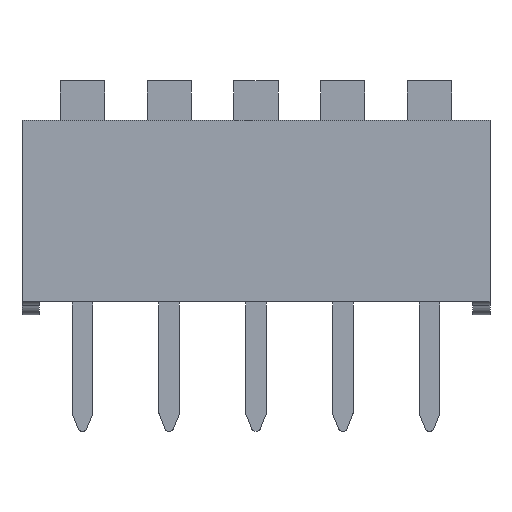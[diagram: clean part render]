
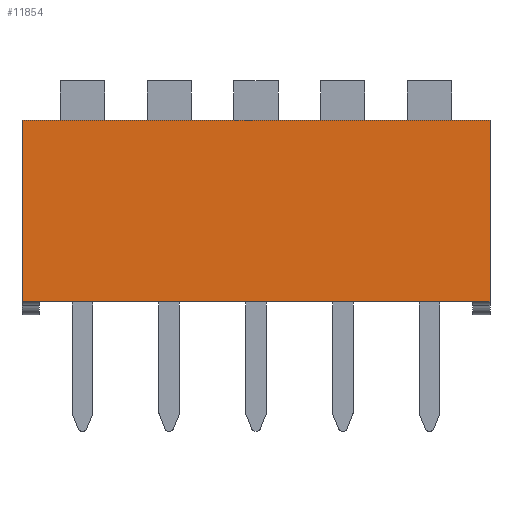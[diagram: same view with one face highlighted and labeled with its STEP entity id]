
A CAD part, front view. The second image highlights one B-rep face of the part: STEP entity #11854.
In plain terms, the highlighted planar face has unit normal (0, -1, 0).
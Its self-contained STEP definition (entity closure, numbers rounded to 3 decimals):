
#102 = PLANE('',#103);
#103 = AXIS2_PLACEMENT_3D('',#104,#105,#106);
#104 = CARTESIAN_POINT('',(-1.77,8.76,0.4));
#105 = DIRECTION('',(-1.,0.,0.));
#106 = DIRECTION('',(0.,-1.,0.));
#249 = VERTEX_POINT('',#250);
#250 = CARTESIAN_POINT('',(-1.77,-1.14,0.4));
#264 = PLANE('',#265);
#265 = AXIS2_PLACEMENT_3D('',#266,#267,#268);
#266 = CARTESIAN_POINT('',(5.08,3.81,0.4));
#267 = DIRECTION('',(0.,0.,1.));
#268 = DIRECTION('',(1.,0.,0.));
#276 = EDGE_CURVE('',#249,#277,#279,.T.);
#277 = VERTEX_POINT('',#278);
#278 = CARTESIAN_POINT('',(-1.77,-1.14,5.7));
#279 = SURFACE_CURVE('',#280,(#284,#291),.PCURVE_S1.);
#280 = LINE('',#281,#282);
#281 = CARTESIAN_POINT('',(-1.77,-1.14,0.4));
#282 = VECTOR('',#283,1.);
#283 = DIRECTION('',(0.,0.,1.));
#284 = PCURVE('',#102,#285);
#285 = DEFINITIONAL_REPRESENTATION('',(#286),#290);
#286 = LINE('',#287,#288);
#287 = CARTESIAN_POINT('',(9.9,0.));
#288 = VECTOR('',#289,1.);
#289 = DIRECTION('',(0.,1.));
#290 = ( GEOMETRIC_REPRESENTATION_CONTEXT(2) 
PARAMETRIC_REPRESENTATION_CONTEXT() REPRESENTATION_CONTEXT('2D SPACE',''
  ) );
#291 = PCURVE('',#292,#297);
#292 = PLANE('',#293);
#293 = AXIS2_PLACEMENT_3D('',#294,#295,#296);
#294 = CARTESIAN_POINT('',(-1.77,-1.14,0.4));
#295 = DIRECTION('',(0.,-1.,0.));
#296 = DIRECTION('',(1.,0.,0.));
#297 = DEFINITIONAL_REPRESENTATION('',(#298),#302);
#298 = LINE('',#299,#300);
#299 = CARTESIAN_POINT('',(0.,0.));
#300 = VECTOR('',#301,1.);
#301 = DIRECTION('',(0.,1.));
#302 = ( GEOMETRIC_REPRESENTATION_CONTEXT(2) 
PARAMETRIC_REPRESENTATION_CONTEXT() REPRESENTATION_CONTEXT('2D SPACE',''
  ) );
#320 = PLANE('',#321);
#321 = AXIS2_PLACEMENT_3D('',#322,#323,#324);
#322 = CARTESIAN_POINT('',(5.08,3.81,5.7));
#323 = DIRECTION('',(0.,0.,1.));
#324 = DIRECTION('',(1.,0.,0.));
#2064 = EDGE_CURVE('',#277,#2065,#2067,.T.);
#2065 = VERTEX_POINT('',#2066);
#2066 = CARTESIAN_POINT('',(11.93,-1.14,5.7));
#2067 = SURFACE_CURVE('',#2068,(#2072,#2079),.PCURVE_S1.);
#2068 = LINE('',#2069,#2070);
#2069 = CARTESIAN_POINT('',(11.93,-1.14,5.7));
#2070 = VECTOR('',#2071,1.);
#2071 = DIRECTION('',(1.,0.,0.));
#2072 = PCURVE('',#320,#2073);
#2073 = DEFINITIONAL_REPRESENTATION('',(#2074),#2078);
#2074 = LINE('',#2075,#2076);
#2075 = CARTESIAN_POINT('',(6.85,-4.95));
#2076 = VECTOR('',#2077,1.);
#2077 = DIRECTION('',(1.,0.));
#2078 = ( GEOMETRIC_REPRESENTATION_CONTEXT(2) 
PARAMETRIC_REPRESENTATION_CONTEXT() REPRESENTATION_CONTEXT('2D SPACE',''
  ) );
#2079 = PCURVE('',#292,#2080);
#2080 = DEFINITIONAL_REPRESENTATION('',(#2081),#2085);
#2081 = LINE('',#2082,#2083);
#2082 = CARTESIAN_POINT('',(13.7,5.3));
#2083 = VECTOR('',#2084,1.);
#2084 = DIRECTION('',(1.,0.));
#2085 = ( GEOMETRIC_REPRESENTATION_CONTEXT(2) 
PARAMETRIC_REPRESENTATION_CONTEXT() REPRESENTATION_CONTEXT('2D SPACE',''
  ) );
#2103 = PLANE('',#2104);
#2104 = AXIS2_PLACEMENT_3D('',#2105,#2106,#2107);
#2105 = CARTESIAN_POINT('',(11.93,-1.14,0.4));
#2106 = DIRECTION('',(1.,0.,0.));
#2107 = DIRECTION('',(0.,1.,0.));
#8964 = VERTEX_POINT('',#8965);
#8965 = CARTESIAN_POINT('',(11.93,-1.14,0.4));
#8986 = EDGE_CURVE('',#8964,#249,#8987,.T.);
#8987 = SURFACE_CURVE('',#8988,(#8992,#8999),.PCURVE_S1.);
#8988 = LINE('',#8989,#8990);
#8989 = CARTESIAN_POINT('',(11.93,-1.14,0.4));
#8990 = VECTOR('',#8991,1.);
#8991 = DIRECTION('',(-1.,0.,0.));
#8992 = PCURVE('',#264,#8993);
#8993 = DEFINITIONAL_REPRESENTATION('',(#8994),#8998);
#8994 = LINE('',#8995,#8996);
#8995 = CARTESIAN_POINT('',(6.85,-4.95));
#8996 = VECTOR('',#8997,1.);
#8997 = DIRECTION('',(-1.,0.));
#8998 = ( GEOMETRIC_REPRESENTATION_CONTEXT(2) 
PARAMETRIC_REPRESENTATION_CONTEXT() REPRESENTATION_CONTEXT('2D SPACE',''
  ) );
#8999 = PCURVE('',#292,#9000);
#9000 = DEFINITIONAL_REPRESENTATION('',(#9001),#9005);
#9001 = LINE('',#9002,#9003);
#9002 = CARTESIAN_POINT('',(13.7,0.));
#9003 = VECTOR('',#9004,1.);
#9004 = DIRECTION('',(-1.,0.));
#9005 = ( GEOMETRIC_REPRESENTATION_CONTEXT(2) 
PARAMETRIC_REPRESENTATION_CONTEXT() REPRESENTATION_CONTEXT('2D SPACE',''
  ) );
#11820 = EDGE_CURVE('',#8964,#2065,#11821,.T.);
#11821 = SURFACE_CURVE('',#11822,(#11826,#11833),.PCURVE_S1.);
#11822 = LINE('',#11823,#11824);
#11823 = CARTESIAN_POINT('',(11.93,-1.14,0.4));
#11824 = VECTOR('',#11825,1.);
#11825 = DIRECTION('',(0.,0.,1.));
#11826 = PCURVE('',#2103,#11827);
#11827 = DEFINITIONAL_REPRESENTATION('',(#11828),#11832);
#11828 = LINE('',#11829,#11830);
#11829 = CARTESIAN_POINT('',(0.,0.));
#11830 = VECTOR('',#11831,1.);
#11831 = DIRECTION('',(0.,1.));
#11832 = ( GEOMETRIC_REPRESENTATION_CONTEXT(2) 
PARAMETRIC_REPRESENTATION_CONTEXT() REPRESENTATION_CONTEXT('2D SPACE',''
  ) );
#11833 = PCURVE('',#292,#11834);
#11834 = DEFINITIONAL_REPRESENTATION('',(#11835),#11839);
#11835 = LINE('',#11836,#11837);
#11836 = CARTESIAN_POINT('',(13.7,0.));
#11837 = VECTOR('',#11838,1.);
#11838 = DIRECTION('',(0.,1.));
#11839 = ( GEOMETRIC_REPRESENTATION_CONTEXT(2) 
PARAMETRIC_REPRESENTATION_CONTEXT() REPRESENTATION_CONTEXT('2D SPACE',''
  ) );
#11854 = ADVANCED_FACE('',(#11855),#292,.T.);
#11855 = FACE_BOUND('',#11856,.T.);
#11856 = EDGE_LOOP('',(#11857,#11858,#11859,#11860));
#11857 = ORIENTED_EDGE('',*,*,#8986,.F.);
#11858 = ORIENTED_EDGE('',*,*,#11820,.T.);
#11859 = ORIENTED_EDGE('',*,*,#2064,.F.);
#11860 = ORIENTED_EDGE('',*,*,#276,.F.);
